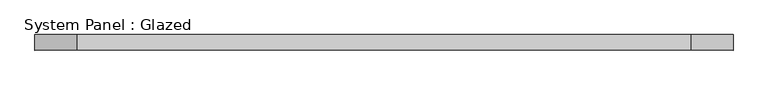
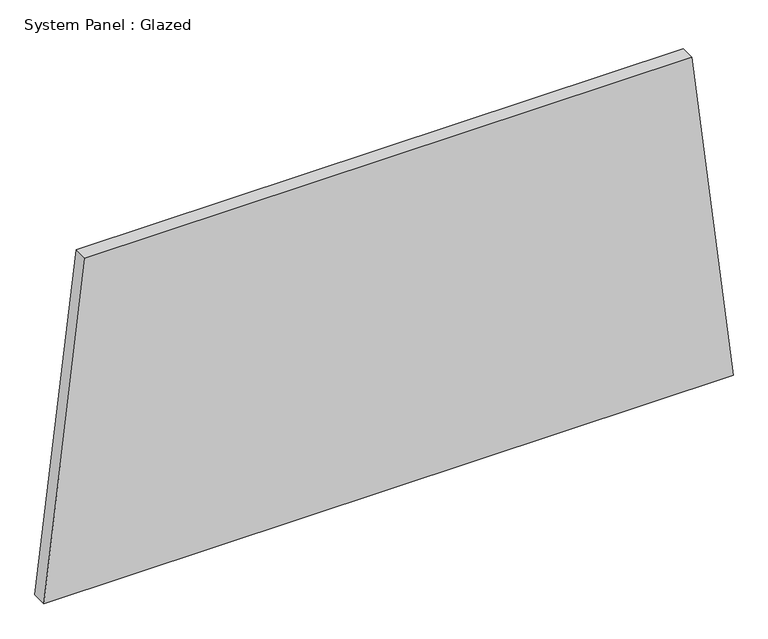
"""IFC4 building model written with IfcOpenShell, lengths in millimetres: plate geometry, System Panel : Glazed."""

from ifc_helpers import new_model, si_unit, frame, origin, place, context, project, spatial, polyline, outline, extrude, source, transform, mapped, element, save


def system_panel_glazed_aaff0bff(model_context):
    return source(origin(), model_context, "Body", "SweptSolid", [
        extrude(outline(polyline([(0.0, -570.0902869), (0.0, 570.0902869), (580.0408914, 501.9847472), (580.0408914, -501.9847472), (0.0, -570.0902869)])), frame((0.0, -44.45, 0.0), z_axis=(0.0, 1.0, 0.0), x_axis=(0.0, 0.0, 1.0)), (0.0, 0.0, 1.0), 25.4),
    ])


if __name__ == "__main__":
    model = new_model("IFC4")
    model_context = context("Model", 3, world=origin())
    ifc_project = project(units=[si_unit("LENGTHUNIT", "METRE", prefix="MILLI")], contexts=[model_context])
    site = spatial("IfcSite", under=ifc_project)
    building = spatial("IfcBuilding", under=site)
    placement = place(None, origin())
    system_panel_glazed_shape = system_panel_glazed_aaff0bff(model_context)
    element("IfcPlate", 1, ObjectType="System Panel : Glazed", at=placement, inside=building, context=model_context, shape_type="MappedRepresentation", body=[
        mapped(system_panel_glazed_shape, transform((0.0, 0.0, 0.0), x_axis=(1.0, 0.0, 0.0), y_axis=(0.0, 1.0, 0.0), z_axis=(0.0, 0.0, 1.0))),
    ])
    save(model, "model.ifc")
